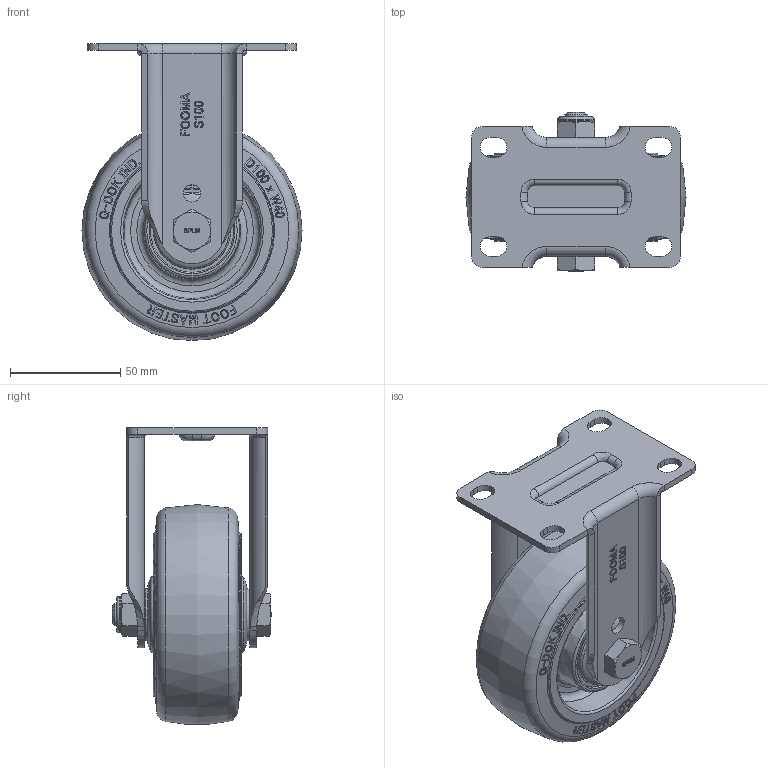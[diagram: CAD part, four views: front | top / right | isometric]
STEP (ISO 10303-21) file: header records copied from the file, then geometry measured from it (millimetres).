
FILE_DESCRIPTION(/* description */ (''),/* implementation_level */ '2;1');
FILE_NAME(/* name */ '\\192.168.10.38\지덕공유\1.기술연구소\2.연구개발 진행중\98.스테인레스캐스터 개발건_2023.10.26\제품설계\3D\홈페이지용\SPLM-100-ARF-HRD.stp',/* time_stamp */ '2025-02-18T16:30:13+09:00',/* author */ ('admin'),/* organization */ ('지덕산업'),/* preprocessor_version */ 'ST-DEVELOPER v18.1',/* originating_system */ 'Autodesk Inventor 2021',/* authorisation */ '');
FILE_SCHEMA (('CONFIG_CONTROL_DESIGN'));
Length unit declared in the file: millimetre
Products named in the file (1): SPLM-100-ARF-HRD
Bounding box: 100 x 72.3 x 134.83 mm (x, y, z)
Volume: 301026.4 mm3; surface area: 63428 mm2
Topology: 1 solids, 1 shells, 894 faces, 2390 edges, 1577 vertices
Faces by surface type: plane 387, bspline 360, cone 72, cylinder 39, torus 36
Full cylindrical faces by diameter (mm): 8 x2, 10 x1, 11 x1, 16.5 x1
Entity records: 31183 total; most frequent: CARTESIAN_POINT 12357, ORIENTED_EDGE 4780, DIRECTION 2540, EDGE_CURVE 2390, VERTEX_POINT 1577, LINE 1030, VECTOR 1030, EDGE_LOOP 987
